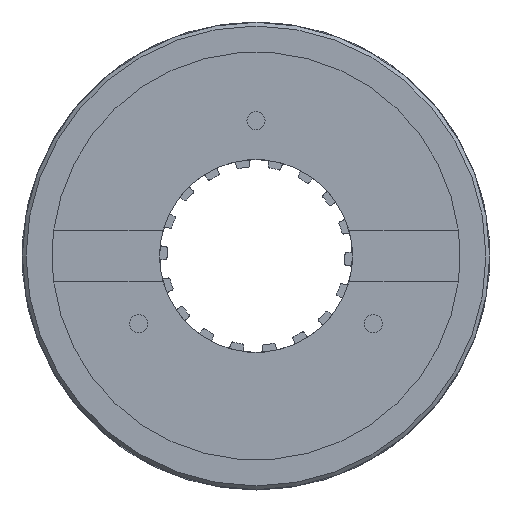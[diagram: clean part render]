
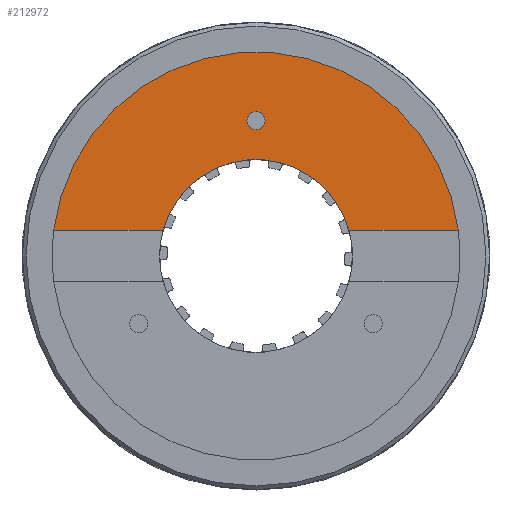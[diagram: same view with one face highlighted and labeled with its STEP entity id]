
A CAD part, left-side view. The second image highlights one B-rep face of the part: STEP entity #212972.
In plain terms, the highlighted planar face has unit normal (-1, 0, 0).
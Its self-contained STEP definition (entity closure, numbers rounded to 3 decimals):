
#137=FACE_BOUND('',#28350,.T.);
#8760=PLANE('',#225311);
#18434=FACE_OUTER_BOUND('',#28349,.T.);
#28349=EDGE_LOOP('',(#190707,#190708,#190709,#190710));
#28350=EDGE_LOOP('',(#190711));
#31295=CIRCLE('',#225309,26.);
#31297=CIRCLE('',#225312,55.);
#31298=CIRCLE('',#225313,2.459);
#57749=LINE('',#335921,#84469);
#57751=LINE('',#335926,#84471);
#84469=VECTOR('',#275985,10.);
#84471=VECTOR('',#275989,10.);
#104104=VERTEX_POINT('',#335917);
#104105=VERTEX_POINT('',#335919);
#104106=VERTEX_POINT('',#335923);
#104107=VERTEX_POINT('',#335925);
#104111=VERTEX_POINT('',#335942);
#133164=EDGE_CURVE('',#104104,#104105,#57749,.T.);
#133166=EDGE_CURVE('',#104107,#104106,#57751,.T.);
#133173=EDGE_CURVE('',#104105,#104107,#31295,.T.);
#133175=EDGE_CURVE('',#104104,#104106,#31297,.T.);
#133176=EDGE_CURVE('',#104111,#104111,#31298,.T.);
#190707=ORIENTED_EDGE('',*,*,#133166,.T.);
#190708=ORIENTED_EDGE('',*,*,#133175,.F.);
#190709=ORIENTED_EDGE('',*,*,#133164,.T.);
#190710=ORIENTED_EDGE('',*,*,#133173,.T.);
#190711=ORIENTED_EDGE('',*,*,#133176,.T.);
#212972=ADVANCED_FACE('',(#18434,#137),#8760,.T.);
#225309=AXIS2_PLACEMENT_3D('',#335938,#276003,#276004);
#225311=AXIS2_PLACEMENT_3D('',#335940,#276007,#276008);
#225312=AXIS2_PLACEMENT_3D('',#335941,#276009,#276010);
#225313=AXIS2_PLACEMENT_3D('',#335943,#276011,#276012);
#275985=DIRECTION('',(0.,-1.,0.));
#275989=DIRECTION('',(0.,-1.,0.));
#276003=DIRECTION('center_axis',(1.,0.,0.));
#276004=DIRECTION('ref_axis',(0.,0.,-1.));
#276007=DIRECTION('center_axis',(-1.,0.,0.));
#276008=DIRECTION('ref_axis',(0.,0.,1.));
#276009=DIRECTION('center_axis',(1.,0.,0.));
#276010=DIRECTION('ref_axis',(0.,0.,-1.));
#276011=DIRECTION('center_axis',(1.,0.,0.));
#276012=DIRECTION('ref_axis',(0.,0.,1.));
#335917=CARTESIAN_POINT('',(-13.,54.553,7.));
#335919=CARTESIAN_POINT('',(-13.,25.04,7.));
#335921=CARTESIAN_POINT('',(-13.,56.25,7.));
#335923=CARTESIAN_POINT('',(-13.,-54.553,7.));
#335925=CARTESIAN_POINT('',(-13.,-25.04,7.));
#335926=CARTESIAN_POINT('',(-13.,56.25,7.));
#335938=CARTESIAN_POINT('Origin',(-13.,0.,0.));
#335940=CARTESIAN_POINT('Origin',(-13.,55.,0.));
#335941=CARTESIAN_POINT('Origin',(-13.,0.,0.));
#335942=CARTESIAN_POINT('',(-13.,0.,34.042));
#335943=CARTESIAN_POINT('Origin',(-13.,0.,36.5));
